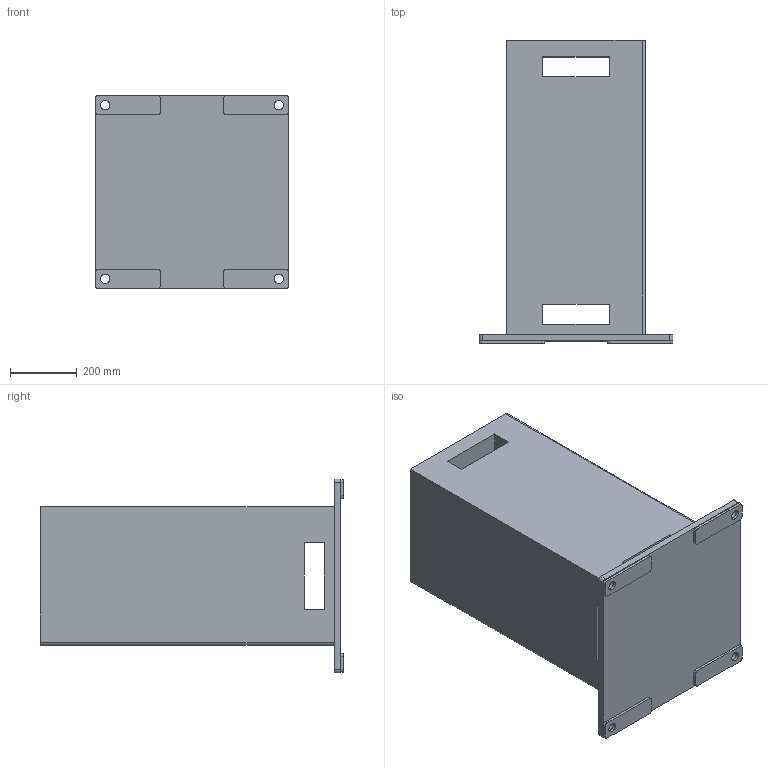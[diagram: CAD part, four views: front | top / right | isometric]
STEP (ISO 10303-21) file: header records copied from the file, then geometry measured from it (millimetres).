
FILE_DESCRIPTION (( 'STEP AP214' ), '1' );
FILE_NAME ('Robotersockel_900mm_140285~a.STEP', '2016-07-06T11:17:55', ( '-' ), ( 'Yaskawa Europe GmbH' ), 'SwSTEP 2.0', 'SolidWorks 2016', '' );
FILE_SCHEMA (( 'AUTOMOTIVE_DESIGN' ));
Length unit declared in the file: millimetre
Products named in the file (1): Robotersockel_900mm_140285~a
Bounding box: 580 x 908 x 580 mm (x, y, z)
Volume: 146616538.2 mm3; surface area: 2744738.3 mm2
Topology: 5 solids, 5 shells, 127 faces, 338 edges, 212 vertices
Faces by surface type: cylinder 62, plane 49, cone 16
Entity records: 4859 total; most frequent: DIRECTION 702, CARTESIAN_POINT 662, ORIENTED_EDGE 644, EDGE_CURVE 322, AXIS2_PLACEMENT_3D 252, VERTEX_POINT 212, LINE 198, VECTOR 198
